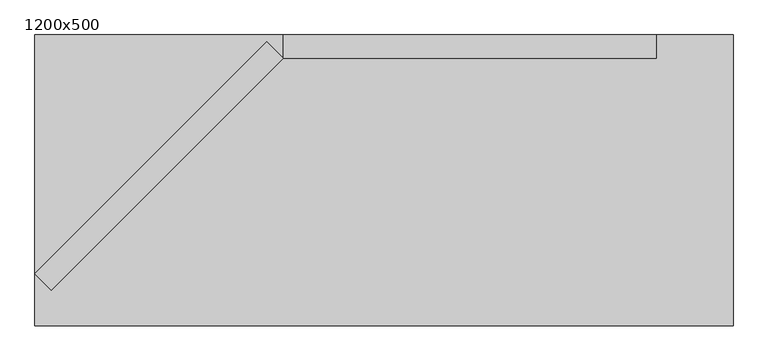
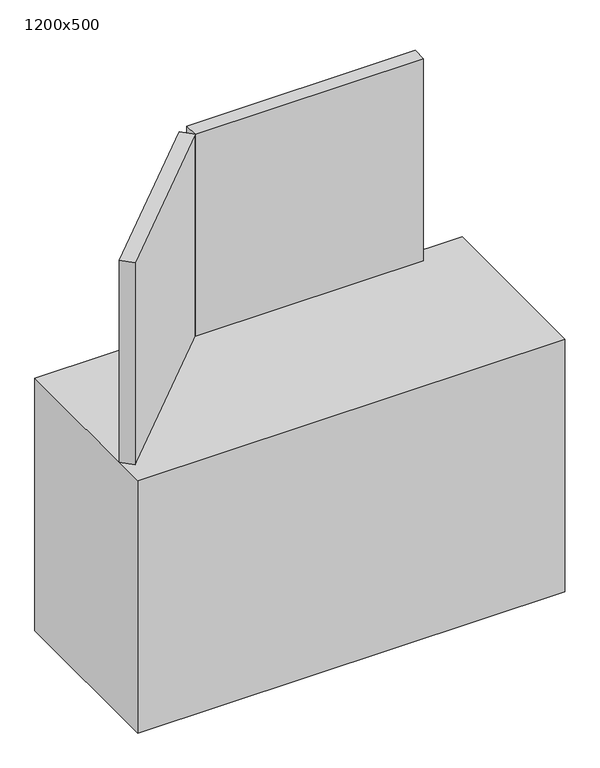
"""IFC4 building model written with IfcOpenShell, lengths in millimetres: furniture geometry, Fu_будуар : 1200x500."""

from ifc_helpers import new_model, si_unit, frame, origin, origin_with_axes, place, context, project, spatial, polyline, outline, extrude, source, transform, mapped, element, save


def furniture_1200x500_daaa9677(model_context):
    return source(origin(), model_context, "Body", "SweptSolid", [
        extrude(outline(polyline([(-428.1255904, 1605.0782336), (-399.8413192, 1576.7939624), (-798.3138367, 1178.3214448), (-826.598108, 1206.605716), (-428.1255904, 1605.0782336)])), frame((0.0, 0.0, 750.0), z_axis=(0.0, 0.0, 1.0), x_axis=(1.0, 0.0, 0.0)), (0.0, 0.0, 1.0), 600.0),
        extrude(outline(polyline([(-399.8413192, 1616.7939624), (241.2145764, 1616.7939624), (241.2145764, 1576.7939624), (-399.8413192, 1576.7939624), (-399.8413192, 1616.7939624)])), frame((0.0, 0.0, 750.0), z_axis=(0.0, 0.0, 1.0), x_axis=(1.0, 0.0, 0.0)), (0.0, 0.0, 1.0), 600.0),
        extrude(outline(polyline([(373.401892, 1616.7939624), (373.401892, 1116.7939624), (-826.598108, 1116.7939624), (-826.598108, 1616.7939624), (373.401892, 1616.7939624)])), origin_with_axes(), (0.0, 0.0, 1.0), 750.0),
    ])


if __name__ == "__main__":
    model = new_model("IFC4")
    model_context = context("Model", 3, world=origin())
    ifc_project = project(units=[si_unit("LENGTHUNIT", "METRE", prefix="MILLI")], contexts=[model_context])
    site = spatial("IfcSite", under=ifc_project)
    building = spatial("IfcBuilding", under=site)
    placement = place(None, origin())
    furniture_1200x500_shape = furniture_1200x500_daaa9677(model_context)
    element("IfcFurniture", 1, ObjectType="Fu_будуар : 1200x500", at=placement, inside=building, context=model_context, shape_type="MappedRepresentation", body=[
        mapped(furniture_1200x500_shape, transform((0.0, 0.0, 0.0), x_axis=(1.0, 0.0, 0.0), y_axis=(0.0, 1.0, 0.0), z_axis=(0.0, 0.0, 1.0))),
    ])
    save(model, "model.ifc")
